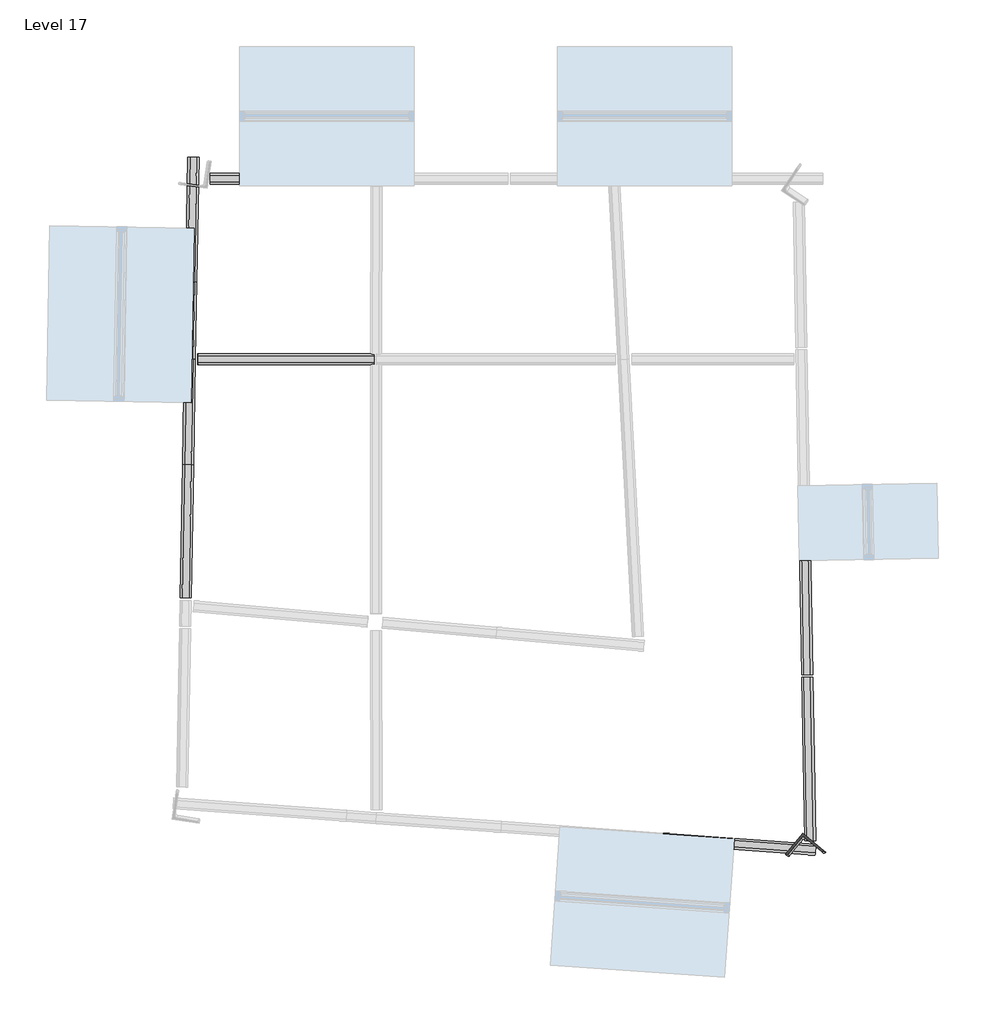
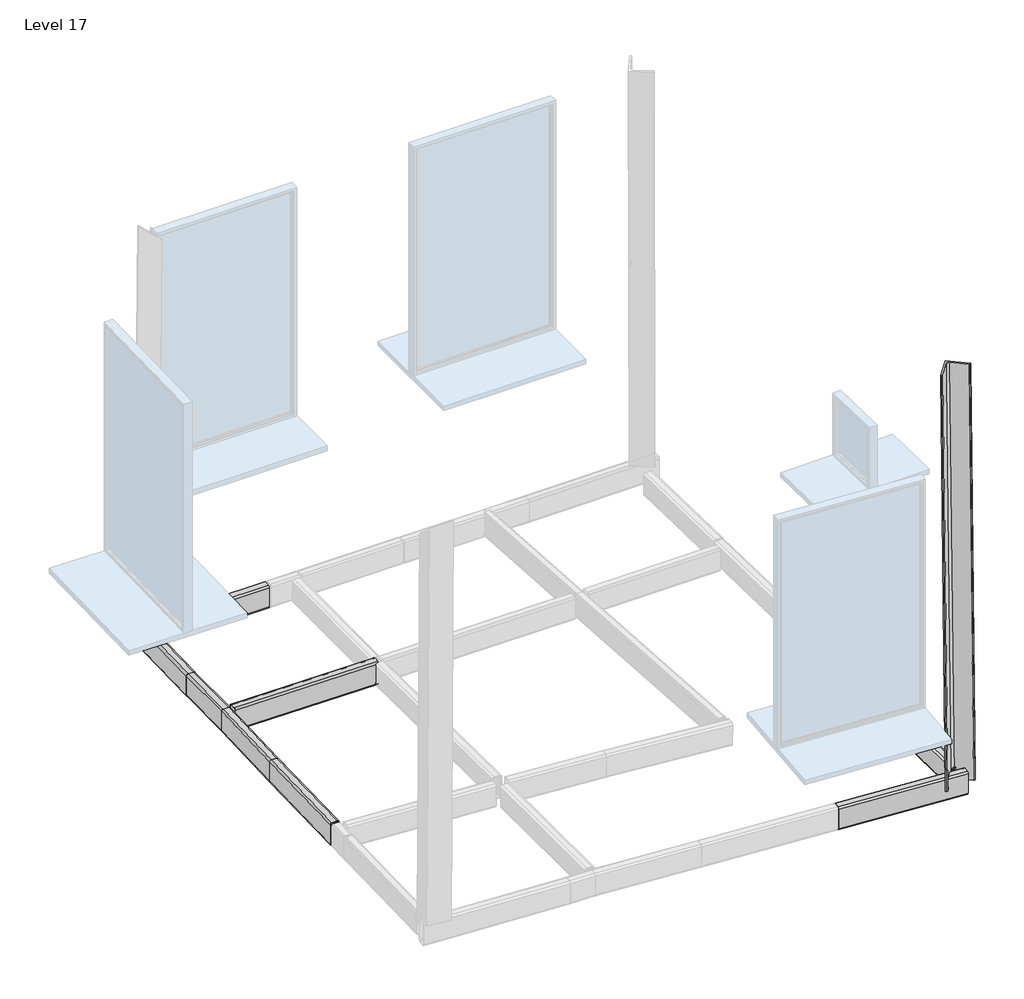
# One storey, part 2 of 3: 10 beams.
"""IFC4 building model written with IfcOpenShell, lengths in millimetres."""

from ifc_helpers import new_model, si_unit, frame, origin, place, context, project, spatial, polyline, circle_curve, ellipse_curve, transform, mapped, element, save
from ifc_brep_helpers import plane_surface, cylinder_surface, revolved_surface, advanced_brep
from components import l120x10_26ae7882, rectangular_and_square_hollow_sections_b3987f33, rectangular_and_square_hollow_sections_56db6596, rectangular_and_square_hollow_sections_7d008f3f, rectangular_and_square_hollow_sections_a107d3ab, rectangular_and_square_hollow_sections_ca13e8e6, rectangular_and_square_hollow_sections_25e7b042

model = new_model("IFC4")

# Units and contexts
model_context = context("Model", 3, world=origin())
ifc_project = project(units=[si_unit("LENGTHUNIT", "METRE", prefix="MILLI")], contexts=[model_context])

# Site, building, storey
site = spatial("IfcSite", under=ifc_project)
building = spatial("IfcBuilding", under=site)
storey = spatial("IfcBuildingStorey", under=building, Name="Level 17", Elevation=2886.4344134)

# Beams
placement = place(None, origin())
l120x10_shape = l120x10_26ae7882(model_context)
element("IfcBeam", 1, ObjectType="L ali uguali : L120x10", at=placement, inside=storey, context=model_context, shape_type="MappedRepresentation", body=[
    mapped(l120x10_shape, transform((2536.0507112, -1412.2872192, 4290.7877329), x_axis=(0.007391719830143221, -0.006135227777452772, -0.9999538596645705), y_axis=(0.6386756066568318, 0.7694761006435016, 0.0), z_axis=(0.7694405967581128, -0.6386461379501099, 0.009606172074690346))),
])
element("IfcBeam", 2, ObjectType="Rectangular and Square Hollow Sections : TREC160x60x6", at=placement, inside=storey, context=model_context, shape_type="AdvancedBrep", body=[
    advanced_brep(
    [(-816.2448692, 1642.878765, 2940.82166), (-828.2447984, 1642.9884287, 2928.82166), (-835.6333558, 1223.3970055, 2935.9302115), (-823.6347342, 1223.213078, 2947.9314697), (-780.2504492, 1642.2449417, 2940.82166), (-787.6403143, 1222.5792546, 2947.9314697), (-768.2540985, 1641.9320565, 2928.82166), (-775.6426558, 1222.3406333, 2935.9302115), (-768.2743768, 1640.7804671, 2792.82166), (-775.6481134, 1222.0307022, 2799.9159525), (-780.274306, 1640.8901307, 2780.82166), (-787.6467349, 1222.2146298, 2787.9146943), (-816.268726, 1641.523954, 2780.82166), (-823.6411549, 1222.8484531, 2787.9146943), (-828.2650767, 1641.8368393, 2792.82166), (-835.6388133, 1223.0870744, 2799.9159525), (-816.2457638, 1642.8279596, 2934.82166), (-780.2513439, 1642.1941363, 2934.82166), (-787.6405551, 1222.5655812, 2941.9308406), (-823.634975, 1223.1994045, 2941.9308406), (-822.2457284, 1642.8827914, 2928.82166), (-829.6342858, 1223.2913683, 2935.9302115), (-822.2660067, 1641.7312021, 2792.82166), (-829.6397433, 1222.9814372, 2799.9159525), (-816.2678313, 1641.5747595, 2786.82166), (-823.6409141, 1222.8621266, 2793.9153234), (-780.2734114, 1640.9409361, 2786.82166), (-787.6464942, 1222.2283032, 2793.9153234), (-774.2734467, 1640.8861043, 2792.82166), (-781.6471834, 1222.1363394, 2799.9159525), (-774.2531685, 1642.0376937, 2928.82166), (-781.6417258, 1222.4462705, 2935.9302115)],
    [
        (0, 1, ellipse_curve(frame((-816.2466584, 1642.7771542, 2928.82166), z_axis=(-0.017605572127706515, -0.9998091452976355, 0.008468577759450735), x_axis=(-0.00014905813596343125, -0.008467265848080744, -0.9999641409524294)), 12.0004303, 12.0)),
        (1, 2),
        (2, 3, ellipse_curve(frame((-823.6352158, 1223.1857311, 2935.9302115), z_axis=(0.01760615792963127, 0.9998424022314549, -0.002279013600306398), x_axis=(-4.011334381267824e-05, -0.002278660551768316, -0.9999974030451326)), 12.0012893, 12.0)),
        (3, 0),
        (4, 0),
        (3, 5),
        (5, 4),
        (6, 4, ellipse_curve(frame((-780.2522385, 1642.1433309, 2928.82166), z_axis=(-0.017605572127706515, -0.9998091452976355, 0.008468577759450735), x_axis=(-0.00014905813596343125, -0.008467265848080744, -0.9999641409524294)), 12.0004303, 12.0)),
        (5, 7, ellipse_curve(frame((-787.6407958, 1222.5519078, 2935.9302115), z_axis=(0.01760615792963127, 0.9998424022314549, -0.002279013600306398), x_axis=(-4.011334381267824e-05, -0.002278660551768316, -0.9999974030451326)), 12.0012893, 12.0)),
        (7, 6),
        (8, 6),
        (7, 9),
        (9, 8),
        (10, 8, ellipse_curve(frame((-780.2725167, 1640.9917415, 2792.82166), z_axis=(-0.017605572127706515, -0.9998091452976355, 0.008468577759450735), x_axis=(-0.00014905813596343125, -0.008467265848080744, -0.9999641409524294)), 12.0004303, 12.0)),
        (9, 11, ellipse_curve(frame((-787.6462534, 1222.2419767, 2799.9159525), z_axis=(0.01760615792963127, 0.9998424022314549, -0.002279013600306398), x_axis=(-4.011334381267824e-05, -0.002278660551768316, -0.9999974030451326)), 12.0012893, 12.0)),
        (11, 10),
        (12, 10),
        (11, 13),
        (13, 12),
        (14, 12, ellipse_curve(frame((-816.2669367, 1641.6255649, 2792.82166), z_axis=(-0.017605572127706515, -0.9998091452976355, 0.008468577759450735), x_axis=(-0.00014905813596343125, -0.008467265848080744, -0.9999641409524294)), 12.0004303, 12.0)),
        (13, 15, ellipse_curve(frame((-823.6406733, 1222.8758, 2799.9159525), z_axis=(0.01760615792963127, 0.9998424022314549, -0.002279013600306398), x_axis=(-4.011334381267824e-05, -0.002278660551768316, -0.9999974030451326)), 12.0012893, 12.0)),
        (15, 14),
        (1, 14),
        (15, 2),
        (16, 17),
        (17, 18),
        (18, 19),
        (19, 16),
        (20, 16, ellipse_curve(frame((-816.2466584, 1642.7771542, 2928.82166), z_axis=(0.017605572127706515, 0.9998091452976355, -0.008468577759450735), x_axis=(0.00014905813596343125, 0.008467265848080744, 0.9999641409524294)), 6.0002152, 6.0)),
        (19, 21, ellipse_curve(frame((-823.6352158, 1223.1857311, 2935.9302115), z_axis=(-0.01760615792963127, -0.9998424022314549, 0.002279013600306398), x_axis=(4.011334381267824e-05, 0.002278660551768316, 0.9999974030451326)), 6.0006447, 6.0)),
        (21, 20),
        (22, 20),
        (21, 23),
        (23, 22),
        (24, 22, ellipse_curve(frame((-816.2669367, 1641.6255649, 2792.82166), z_axis=(0.017605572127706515, 0.9998091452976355, -0.008468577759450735), x_axis=(0.00014905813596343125, 0.008467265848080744, 0.9999641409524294)), 6.0002152, 6.0)),
        (23, 25, ellipse_curve(frame((-823.6406733, 1222.8758, 2799.9159525), z_axis=(-0.01760615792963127, -0.9998424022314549, 0.002279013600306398), x_axis=(4.011334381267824e-05, 0.002278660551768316, 0.9999974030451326)), 6.0006447, 6.0)),
        (25, 24),
        (26, 24),
        (25, 27),
        (27, 26),
        (28, 26, ellipse_curve(frame((-780.2725167, 1640.9917415, 2792.82166), z_axis=(0.017605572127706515, 0.9998091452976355, -0.008468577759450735), x_axis=(0.00014905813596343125, 0.008467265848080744, 0.9999641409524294)), 6.0002152, 6.0)),
        (27, 29, ellipse_curve(frame((-787.6462534, 1222.2419767, 2799.9159525), z_axis=(-0.01760615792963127, -0.9998424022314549, 0.002279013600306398), x_axis=(4.011334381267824e-05, 0.002278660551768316, 0.9999974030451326)), 6.0006447, 6.0)),
        (29, 28),
        (30, 28),
        (29, 31),
        (31, 30),
        (17, 30, ellipse_curve(frame((-780.2522385, 1642.1433309, 2928.82166), z_axis=(0.017605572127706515, 0.9998091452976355, -0.008468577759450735), x_axis=(0.00014905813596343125, 0.008467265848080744, 0.9999641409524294)), 6.0002152, 6.0)),
        (31, 18, ellipse_curve(frame((-787.6407958, 1222.5519078, 2935.9302115), z_axis=(-0.01760615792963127, -0.9998424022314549, 0.002279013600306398), x_axis=(4.011334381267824e-05, 0.002278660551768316, 0.9999974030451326)), 6.0006447, 6.0)),
    ],
    [
        cylinder_surface(frame((-816.2391236, 1643.2050519, 2928.8144107), z_axis=(0.01760367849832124, 0.9997015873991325, -0.01693654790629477), x_axis=(0.9998449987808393, -0.017606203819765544, 0.0)), 12.0),
        plane_surface(frame((-816.2355454, 1643.4082589, 2940.8126895), z_axis=(0.0002981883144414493, 0.01693392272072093, 0.9998565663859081), x_axis=(-0.017603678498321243, -0.9997015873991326, 0.016936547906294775))),
        cylinder_surface(frame((-780.2447037, 1642.5712285, 2928.8144107), z_axis=(0.01760367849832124, 0.9997015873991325, -0.01693654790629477), x_axis=(0.9998449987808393, -0.017606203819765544, 0.0)), 12.0),
        plane_surface(frame((-768.2465637, 1642.3599541, 2928.8144107), z_axis=(0.9998449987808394, -0.017606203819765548, 0.0), x_axis=(-0.017603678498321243, -0.9997015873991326, 0.016936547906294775))),
        cylinder_surface(frame((-780.2852573, 1640.268215, 2792.8339177), z_axis=(0.01760367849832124, 0.9997015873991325, -0.01693654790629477), x_axis=(0.9998449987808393, -0.017606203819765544, 0.0)), 12.0),
        plane_surface(frame((-780.2888355, 1640.065008, 2780.8356389), z_axis=(-0.0002981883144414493, -0.01693392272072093, -0.9998565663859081), x_axis=(-0.017603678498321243, -0.9997015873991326, 0.016936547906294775))),
        cylinder_surface(frame((-816.2796772, 1640.9020384, 2792.8339177), z_axis=(0.01760367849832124, 0.9997015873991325, -0.01693654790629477), x_axis=(0.9998449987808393, -0.017606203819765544, 0.0)), 12.0),
        plane_surface(frame((-828.2778172, 1641.1133128, 2792.8339177), z_axis=(-0.9998449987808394, 0.017606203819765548, 0.0), x_axis=(-0.017603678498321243, -0.9997015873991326, 0.016936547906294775))),
        plane_surface(frame((-780.2429145, 1642.6728321, 2934.8135501), z_axis=(-0.0002981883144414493, -0.01693392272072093, -0.9998565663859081), x_axis=(-0.017603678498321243, -0.9997015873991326, 0.016936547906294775))),
        revolved_surface(polyline([(-817.6376941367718, 1222.99216374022, 2935.9317011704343), (-810.2466939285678, 1642.7223151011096, 2928.8207993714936)]), (-816.2391236, 1643.2050519, 2928.8144107), (-0.01760367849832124, -0.9997015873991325, 0.01693654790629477)),
        plane_surface(frame((-822.2381936, 1643.3106891, 2928.8144107), z_axis=(0.9998449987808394, -0.017606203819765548, 0.0), x_axis=(-0.017603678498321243, -0.9997015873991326, 0.016936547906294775))),
        revolved_surface(polyline([(-817.6431516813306, 1222.6822326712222, 2799.917442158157), (-810.2669721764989, 1641.5707258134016, 2792.8207993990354)]), (-816.2796772, 1640.9020384, 2792.8339177), (-0.01760367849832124, -0.9997015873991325, 0.01693654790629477)),
        plane_surface(frame((-816.2814664, 1640.8004348, 2786.8347783), z_axis=(0.0002981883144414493, 0.01693392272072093, 0.9998565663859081), x_axis=(-0.017603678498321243, -0.9997015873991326, 0.016936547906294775))),
        revolved_surface(polyline([(-781.6487317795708, 1222.0484093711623, 2799.9174421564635), (-774.2725522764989, 1640.9369024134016, 2792.8207993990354)]), (-780.2852573, 1640.268215, 2792.8339177), (-0.01760367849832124, -0.9997015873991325, 0.01693654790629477)),
        plane_surface(frame((-774.2861873, 1640.1625778, 2792.8339177), z_axis=(-0.9998449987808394, 0.017606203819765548, 0.0), x_axis=(-0.017603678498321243, -0.9997015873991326, 0.016936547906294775))),
        revolved_surface(polyline([(-781.6432742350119, 1222.3583404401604, 2935.9317011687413), (-774.2522740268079, 1642.08849180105, 2928.8207993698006)]), (-780.2447037, 1642.5712285, 2928.8144107), (-0.01760367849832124, -0.9997015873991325, 0.01693654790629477)),
        plane_surface(frame((-805.643944, 1222.5315414, 2787.914694), z_axis=(-0.01760615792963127, -0.9998424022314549, 0.002279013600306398), x_axis=(0.9998449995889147, -0.017606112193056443, 4.013089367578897e-05))),
        plane_surface(frame((-798.2715127, 1641.2070423, 2780.8216588), z_axis=(0.017605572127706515, 0.9998091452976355, -0.008468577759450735), x_axis=(0.9998450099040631, -0.01760494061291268, 0.00014911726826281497))),
    ],
    [
        (0, [[1, 2, 3, 4]]),
        (1, [[5, -4, 6, 7]]),
        (2, [[8, -7, 9, 10]]),
        (3, [[11, -10, 12, 13]]),
        (4, [[14, -13, 15, 16]]),
        (5, [[17, -16, 18, 19]]),
        (6, [[20, -19, 21, 22]]),
        (7, [[23, -22, 24, -2]]),
        (8, [[25, 26, 27, 28]]),
        (9, [[29, -28, 30, 31]]),
        (10, [[32, -31, 33, 34]]),
        (11, [[35, -34, 36, 37]]),
        (12, [[38, -37, 39, 40]]),
        (13, [[41, -40, 42, 43]]),
        (14, [[44, -43, 45, 46]]),
        (15, [[47, -46, 48, -26]]),
        (16, [[-24, -21, -18, -15, -12, -9, -6, -3], [-48, -45, -42, -39, -36, -33, -30, -27]]),
        (17, [[-1, -5, -8, -11, -14, -17, -20, -23], [-25, -29, -32, -35, -38, -41, -44, -47]]),
    ],
),
])
element("IfcBeam", 3, ObjectType="Rectangular and Square Hollow Sections : TREC160x60x6", at=placement, inside=storey, context=model_context, shape_type="AdvancedBrep", body=[
    advanced_brep(
    [(-858.4720954, -73.6003446, 2928.82166), (-858.4720954, -73.6003446, 2792.82166), (-846.4739554, -73.811619, 2780.82166), (-810.4795354, -74.4454424, 2780.82166), (-798.4813955, -74.6567168, 2792.82166), (-798.4813955, -74.6567168, 2928.82166), (-810.4795354, -74.4454424, 2940.82166), (-846.4739554, -73.811619, 2940.82166), (-810.4795354, -74.4454424, 2934.82166), (-804.4804655, -74.5510796, 2928.82166), (-804.4804655, -74.5510796, 2792.82166), (-810.4795354, -74.4454424, 2786.82166), (-846.4739554, -73.811619, 2786.82166), (-852.4730254, -73.7059818, 2792.82166), (-852.4730254, -73.7059818, 2928.82166), (-846.4739554, -73.811619, 2934.82166), (-833.7459758, 649.0021579, 2940.82166), (-845.742808, 649.2876977, 2928.82166), (-797.7515558, 648.3683346, 2940.82166), (-785.7521081, 648.2313255, 2928.82166), (-785.7372871, 649.073, 2792.82166), (-797.7341194, 649.3585399, 2780.82166), (-833.7285393, 649.9923632, 2780.82166), (-845.7279871, 650.1293722, 2792.82166), (-833.7453219, 649.0392906, 2934.82166), (-797.750902, 648.4054673, 2934.82166), (-839.7437381, 649.1820605, 2928.82166), (-839.7289171, 650.023735, 2792.82166), (-833.7291932, 649.9552305, 2786.82166), (-797.7347732, 649.3214072, 2786.82166), (-791.7363571, 649.1786372, 2792.82166), (-791.7511781, 648.3369627, 2928.82166)],
    [
        (0, 1),
        (1, 2, circle_curve(frame((-846.4739554, -73.811619, 2792.82166), z_axis=(-0.01760620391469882, -0.9998449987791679, 0.0), x_axis=(0.9998449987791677, -0.017606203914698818, 0.0)), 12.0)),
        (2, 3),
        (3, 4, circle_curve(frame((-810.4795354, -74.4454424, 2792.82166), z_axis=(-0.01760620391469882, -0.9998449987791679, 0.0), x_axis=(0.9998449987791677, -0.017606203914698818, 0.0)), 12.0)),
        (4, 5),
        (5, 6, circle_curve(frame((-810.4795354, -74.4454424, 2928.82166), z_axis=(-0.01760620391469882, -0.9998449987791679, 0.0), x_axis=(0.9998449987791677, -0.017606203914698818, 0.0)), 12.0)),
        (6, 7),
        (7, 0, circle_curve(frame((-846.4739554, -73.811619, 2928.82166), z_axis=(-0.01760620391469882, -0.9998449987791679, 0.0), x_axis=(0.9998449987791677, -0.017606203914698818, 0.0)), 12.0)),
        (8, 9, circle_curve(frame((-810.4795354, -74.4454424, 2928.82166), z_axis=(0.01760620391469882, 0.9998449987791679, 0.0), x_axis=(0.9998449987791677, -0.017606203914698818, 0.0)), 6.0)),
        (9, 10),
        (10, 11, circle_curve(frame((-810.4795354, -74.4454424, 2792.82166), z_axis=(0.01760620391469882, 0.9998449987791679, 0.0), x_axis=(0.9998449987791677, -0.017606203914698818, 0.0)), 6.0)),
        (11, 12),
        (12, 13, circle_curve(frame((-846.4739554, -73.811619, 2792.82166), z_axis=(0.01760620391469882, 0.9998449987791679, 0.0), x_axis=(0.9998449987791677, -0.017606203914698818, 0.0)), 6.0)),
        (13, 14),
        (14, 15, circle_curve(frame((-846.4739554, -73.811619, 2928.82166), z_axis=(0.01760620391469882, 0.9998449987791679, 0.0), x_axis=(0.9998449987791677, -0.017606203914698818, 0.0)), 6.0)),
        (15, 8),
        (16, 17, ellipse_curve(frame((-833.7446681, 649.0764233, 2928.82166), z_axis=(-0.017605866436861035, -0.9998258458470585, -0.0061896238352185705), x_axis=(0.00010901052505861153, 0.006188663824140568, -0.9999808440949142)), 12.0002299, 12.0)),
        (17, 0),
        (7, 16),
        (18, 16),
        (6, 18),
        (19, 18, ellipse_curve(frame((-797.7502481, 648.4426, 2928.82166), z_axis=(-0.017605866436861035, -0.9998258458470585, -0.0061896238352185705), x_axis=(0.00010901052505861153, 0.006188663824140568, -0.9999808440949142)), 12.0002299, 12.0)),
        (5, 19),
        (20, 19),
        (4, 20),
        (21, 20, ellipse_curve(frame((-797.7354271, 649.2842745, 2792.82166), z_axis=(-0.017605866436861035, -0.9998258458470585, -0.0061896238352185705), x_axis=(0.00010901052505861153, 0.006188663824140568, -0.9999808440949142)), 12.0002299, 12.0)),
        (3, 21),
        (22, 21),
        (2, 22),
        (23, 22, ellipse_curve(frame((-833.7298471, 649.9180978, 2792.82166), z_axis=(-0.017605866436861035, -0.9998258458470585, -0.0061896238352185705), x_axis=(0.00010901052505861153, 0.006188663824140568, -0.9999808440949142)), 12.0002299, 12.0)),
        (1, 23),
        (17, 23),
        (24, 25),
        (25, 8),
        (15, 24),
        (26, 24, ellipse_curve(frame((-833.7446681, 649.0764233, 2928.82166), z_axis=(0.017605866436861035, 0.9998258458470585, 0.0061896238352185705), x_axis=(-0.00010901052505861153, -0.006188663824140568, 0.9999808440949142)), 6.0001149, 6.0)),
        (14, 26),
        (27, 26),
        (13, 27),
        (28, 27, ellipse_curve(frame((-833.7298471, 649.9180978, 2792.82166), z_axis=(0.017605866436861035, 0.9998258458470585, 0.0061896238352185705), x_axis=(-0.00010901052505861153, -0.006188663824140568, 0.9999808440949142)), 6.0001149, 6.0)),
        (12, 28),
        (29, 28),
        (11, 29),
        (30, 29, ellipse_curve(frame((-797.7354271, 649.2842745, 2792.82166), z_axis=(0.017605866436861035, 0.9998258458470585, 0.0061896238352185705), x_axis=(-0.00010901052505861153, -0.006188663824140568, 0.9999808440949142)), 6.0001149, 6.0)),
        (10, 30),
        (31, 30),
        (9, 31),
        (25, 31, ellipse_curve(frame((-797.7502481, 648.4426, 2928.82166), z_axis=(0.017605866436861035, 0.9998258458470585, 0.0061896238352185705), x_axis=(-0.00010901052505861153, -0.006188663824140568, 0.9999808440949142)), 6.0001149, 6.0)),
    ],
    [
        plane_surface(frame((-828.4767454, -74.1285307, 2860.82166), z_axis=(-0.01760620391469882, -0.9998449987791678, 0.0), x_axis=(0.0, 0.0, 1.0))),
        cylinder_surface(frame((-833.74467, 649.0763151, 2928.82166), z_axis=(0.017606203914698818, 0.9998449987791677, 0.0), x_axis=(0.9998449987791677, -0.017606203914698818, 0.0)), 12.0),
        plane_surface(frame((-833.74467, 649.0763151, 2940.82166), z_axis=(0.0, 0.0, 1.0), x_axis=(-0.01760620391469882, -0.9998449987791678, 0.0))),
        cylinder_surface(frame((-797.75025, 648.4424917, 2928.82166), z_axis=(0.017606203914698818, 0.9998449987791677, 0.0), x_axis=(0.9998449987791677, -0.017606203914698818, 0.0)), 12.0),
        plane_surface(frame((-785.75211, 648.2312173, 2928.82166), z_axis=(0.9998449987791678, -0.01760620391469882, 0.0), x_axis=(-0.01760620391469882, -0.9998449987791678, 0.0))),
        cylinder_surface(frame((-797.75025, 648.4424917, 2792.82166), z_axis=(0.017606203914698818, 0.9998449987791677, 0.0), x_axis=(0.9998449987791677, -0.017606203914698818, 0.0)), 12.0),
        plane_surface(frame((-797.75025, 648.4424917, 2780.82166), z_axis=(0.0, 0.0, -1.0), x_axis=(-0.01760620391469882, -0.9998449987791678, 0.0))),
        cylinder_surface(frame((-833.74467, 649.0763151, 2792.82166), z_axis=(0.017606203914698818, 0.9998449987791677, 0.0), x_axis=(0.9998449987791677, -0.017606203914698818, 0.0)), 12.0),
        plane_surface(frame((-845.74281, 649.2875895, 2792.82166), z_axis=(-0.9998449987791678, 0.01760620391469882, 0.0), x_axis=(-0.01760620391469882, -0.9998449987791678, 0.0))),
        plane_surface(frame((-797.75025, 648.4424917, 2934.82166), z_axis=(0.0, 0.0, -1.0), x_axis=(-0.01760620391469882, -0.9998449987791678, 0.0))),
        revolved_surface(polyline([(-840.4748854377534, -73.91725624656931, 2928.82166), (-827.7449442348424, 649.0079187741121, 2928.82166)]), (-833.74467, 649.0763151, 2928.82166), (-0.017606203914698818, -0.9998449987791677, 0.0)),
        plane_surface(frame((-839.74374, 649.1819523, 2928.82166), z_axis=(0.9998449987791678, -0.01760620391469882, 0.0), x_axis=(-0.01760620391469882, -0.9998449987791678, 0.0))),
        revolved_surface(polyline([(-840.4748854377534, -73.91725624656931, 2792.82166), (-827.7301232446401, 649.8495932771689, 2792.82166)]), (-833.74467, 649.0763151, 2792.82166), (-0.017606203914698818, -0.9998449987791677, 0.0)),
        plane_surface(frame((-833.74467, 649.0763151, 2786.82166), z_axis=(0.0, 0.0, 1.0), x_axis=(-0.01760620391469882, -0.9998449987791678, 0.0))),
        revolved_surface(polyline([(-804.4804654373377, -74.55107962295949, 2792.82166), (-791.7357032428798, 649.2157699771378, 2792.82166)]), (-797.75025, 648.4424917, 2792.82166), (-0.017606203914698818, -0.9998449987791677, 0.0)),
        plane_surface(frame((-791.75118, 648.3368545, 2792.82166), z_axis=(-0.9998449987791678, 0.01760620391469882, 0.0), x_axis=(-0.01760620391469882, -0.9998449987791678, 0.0))),
        revolved_surface(polyline([(-804.4804654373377, -74.55107962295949, 2928.82166), (-791.750524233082, 648.3740954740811, 2928.82166)]), (-797.75025, 648.4424917, 2928.82166), (-0.017606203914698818, -0.9998449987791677, 0.0)),
        plane_surface(frame((-815.7313266, 649.6754515, 2780.821659), z_axis=(0.017605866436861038, 0.9998258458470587, 0.006189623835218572), x_axis=(0.9998450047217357, -0.017605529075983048, -0.00010899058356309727))),
    ],
    [
        (0, [[1, 2, 3, 4, 5, 6, 7, 8], [9, 10, 11, 12, 13, 14, 15, 16]]),
        (1, [[17, 18, -8, 19]]),
        (2, [[20, -19, -7, 21]]),
        (3, [[22, -21, -6, 23]]),
        (4, [[24, -23, -5, 25]]),
        (5, [[26, -25, -4, 27]]),
        (6, [[28, -27, -3, 29]]),
        (7, [[30, -29, -2, 31]]),
        (8, [[32, -31, -1, -18]]),
        (9, [[33, 34, -16, 35]]),
        (10, [[36, -35, -15, 37]]),
        (11, [[38, -37, -14, 39]]),
        (12, [[40, -39, -13, 41]]),
        (13, [[42, -41, -12, 43]]),
        (14, [[44, -43, -11, 45]]),
        (15, [[46, -45, -10, 47]]),
        (16, [[48, -47, -9, -34]]),
        (17, [[-17, -20, -22, -24, -26, -28, -30, -32], [-33, -36, -38, -40, -42, -44, -46, -48]]),
    ],
),
])
element("IfcBeam", 4, ObjectType="Rectangular and Square Hollow Sections : TREC160x60x6", at=placement, inside=storey, context=model_context, shape_type="AdvancedBrep", body=[
    advanced_brep(
    [(-823.6347342, 1223.213078, 2947.9314697), (-835.6333558, 1223.3970055, 2935.9302115), (-845.742808, 649.2876977, 2928.82166), (-833.7459758, 649.0021579, 2940.82166), (-787.6403143, 1222.5792546, 2947.9314697), (-797.7515558, 648.3683346, 2940.82166), (-775.6426558, 1222.3406333, 2935.9302115), (-785.7521081, 648.2313255, 2928.82166), (-775.6481134, 1222.0307022, 2799.9159525), (-785.7372871, 649.073, 2792.82166), (-787.6467349, 1222.2146298, 2787.9146943), (-797.7341194, 649.3585399, 2780.82166), (-823.6411549, 1222.8484531, 2787.9146943), (-833.7285393, 649.9923632, 2780.82166), (-835.6388133, 1223.0870744, 2799.9159525), (-845.7279871, 650.1293722, 2792.82166), (-823.634975, 1223.1994045, 2941.9308406), (-787.6405551, 1222.5655812, 2941.9308406), (-797.750902, 648.4054673, 2934.82166), (-833.7453219, 649.0392906, 2934.82166), (-829.6342858, 1223.2913683, 2935.9302115), (-839.7437381, 649.1820605, 2928.82166), (-829.6397433, 1222.9814372, 2799.9159525), (-839.7289171, 650.023735, 2792.82166), (-823.6409141, 1222.8621266, 2793.9153234), (-833.7291932, 649.9552305, 2786.82166), (-787.6464942, 1222.2283032, 2793.9153234), (-797.7347732, 649.3214072, 2786.82166), (-781.6471834, 1222.1363394, 2799.9159525), (-791.7363571, 649.1786372, 2792.82166), (-781.6417258, 1222.4462705, 2935.9302115), (-791.7511781, 648.3369627, 2928.82166)],
    [
        (0, 1, ellipse_curve(frame((-823.6352158, 1223.1857311, 2935.9302115), z_axis=(-0.01760615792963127, -0.9998424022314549, 0.0022790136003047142), x_axis=(4.0113343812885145e-05, 0.0022786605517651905, 0.9999974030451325)), 12.0012893, 12.0)),
        (1, 2),
        (2, 3, ellipse_curve(frame((-833.7446681, 649.0764233, 2928.82166), z_axis=(0.017605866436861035, 0.9998258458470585, 0.006189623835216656), x_axis=(-0.0001090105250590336, -0.0061886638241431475, 0.9999808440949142)), 12.0002299, 12.0)),
        (3, 0),
        (4, 0),
        (3, 5),
        (5, 4),
        (6, 4, ellipse_curve(frame((-787.6407958, 1222.5519078, 2935.9302115), z_axis=(-0.01760615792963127, -0.9998424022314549, 0.0022790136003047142), x_axis=(4.0113343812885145e-05, 0.0022786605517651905, 0.9999974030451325)), 12.0012893, 12.0)),
        (5, 7, ellipse_curve(frame((-797.7502481, 648.4426, 2928.82166), z_axis=(0.017605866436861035, 0.9998258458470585, 0.006189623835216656), x_axis=(-0.0001090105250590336, -0.0061886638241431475, 0.9999808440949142)), 12.0002299, 12.0)),
        (7, 6),
        (8, 6),
        (7, 9),
        (9, 8),
        (10, 8, ellipse_curve(frame((-787.6462534, 1222.2419767, 2799.9159525), z_axis=(-0.01760615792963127, -0.9998424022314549, 0.0022790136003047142), x_axis=(4.0113343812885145e-05, 0.0022786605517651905, 0.9999974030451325)), 12.0012893, 12.0)),
        (9, 11, ellipse_curve(frame((-797.7354271, 649.2842745, 2792.82166), z_axis=(0.017605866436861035, 0.9998258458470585, 0.006189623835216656), x_axis=(-0.0001090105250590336, -0.0061886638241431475, 0.9999808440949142)), 12.0002299, 12.0)),
        (11, 10),
        (12, 10),
        (11, 13),
        (13, 12),
        (14, 12, ellipse_curve(frame((-823.6406733, 1222.8758, 2799.9159525), z_axis=(-0.01760615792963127, -0.9998424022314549, 0.0022790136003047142), x_axis=(4.0113343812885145e-05, 0.0022786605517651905, 0.9999974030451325)), 12.0012893, 12.0)),
        (13, 15, ellipse_curve(frame((-833.7298471, 649.9180978, 2792.82166), z_axis=(0.017605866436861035, 0.9998258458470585, 0.006189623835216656), x_axis=(-0.0001090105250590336, -0.0061886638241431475, 0.9999808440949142)), 12.0002299, 12.0)),
        (15, 14),
        (1, 14),
        (15, 2),
        (16, 17),
        (17, 18),
        (18, 19),
        (19, 16),
        (20, 16, ellipse_curve(frame((-823.6352158, 1223.1857311, 2935.9302115), z_axis=(0.01760615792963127, 0.9998424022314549, -0.0022790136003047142), x_axis=(-4.0113343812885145e-05, -0.0022786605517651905, -0.9999974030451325)), 6.0006447, 6.0)),
        (19, 21, ellipse_curve(frame((-833.7446681, 649.0764233, 2928.82166), z_axis=(-0.017605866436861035, -0.9998258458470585, -0.006189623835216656), x_axis=(0.0001090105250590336, 0.0061886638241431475, -0.9999808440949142)), 6.0001149, 6.0)),
        (21, 20),
        (22, 20),
        (21, 23),
        (23, 22),
        (24, 22, ellipse_curve(frame((-823.6406733, 1222.8758, 2799.9159525), z_axis=(0.01760615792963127, 0.9998424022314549, -0.0022790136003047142), x_axis=(-4.0113343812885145e-05, -0.0022786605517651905, -0.9999974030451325)), 6.0006447, 6.0)),
        (23, 25, ellipse_curve(frame((-833.7298471, 649.9180978, 2792.82166), z_axis=(-0.017605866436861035, -0.9998258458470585, -0.006189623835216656), x_axis=(0.0001090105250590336, 0.0061886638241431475, -0.9999808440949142)), 6.0001149, 6.0)),
        (25, 24),
        (26, 24),
        (25, 27),
        (27, 26),
        (28, 26, ellipse_curve(frame((-787.6462534, 1222.2419767, 2799.9159525), z_axis=(0.01760615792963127, 0.9998424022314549, -0.0022790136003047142), x_axis=(-4.0113343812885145e-05, -0.0022786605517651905, -0.9999974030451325)), 6.0006447, 6.0)),
        (27, 29, ellipse_curve(frame((-797.7354271, 649.2842745, 2792.82166), z_axis=(-0.017605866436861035, -0.9998258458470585, -0.006189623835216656), x_axis=(0.0001090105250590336, 0.0061886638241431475, -0.9999808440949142)), 6.0001149, 6.0)),
        (29, 28),
        (30, 28),
        (29, 31),
        (31, 30),
        (17, 30, ellipse_curve(frame((-787.6407958, 1222.5519078, 2935.9302115), z_axis=(0.01760615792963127, 0.9998424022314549, -0.0022790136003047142), x_axis=(-4.0113343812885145e-05, -0.0022786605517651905, -0.9999974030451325)), 6.0006447, 6.0)),
        (31, 18, ellipse_curve(frame((-797.7502481, 648.4426, 2928.82166), z_axis=(-0.017605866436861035, -0.9998258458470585, -0.006189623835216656), x_axis=(0.0001090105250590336, 0.0061886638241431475, -0.9999808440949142)), 6.0001149, 6.0)),
    ],
    [
        cylinder_surface(frame((-823.6586307, 1221.8560139, 2935.9137471), z_axis=(0.01760485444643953, 0.9997683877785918, 0.012379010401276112), x_axis=(0.9998449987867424, -0.017606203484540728, 0.0)), 12.0),
        plane_surface(frame((-823.6612461, 1221.7074888, 2947.9128276), z_axis=(-0.00021794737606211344, -0.01237709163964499, 0.9999233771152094), x_axis=(-0.017604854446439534, -0.9997683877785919, -0.012379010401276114))),
        cylinder_surface(frame((-787.6642107, 1221.2221906, 2935.9137471), z_axis=(0.01760485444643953, 0.9997683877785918, 0.012379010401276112), x_axis=(0.9998449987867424, -0.017606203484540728, 0.0)), 12.0),
        plane_surface(frame((-775.6660707, 1221.0109161, 2935.9137471), z_axis=(0.9998449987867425, -0.01760620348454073, 0.0), x_axis=(-0.017604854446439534, -0.9997683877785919, -0.012379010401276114))),
        cylinder_surface(frame((-787.6345699, 1222.905475, 2799.9241678), z_axis=(0.01760485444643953, 0.9997683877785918, 0.012379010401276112), x_axis=(0.9998449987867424, -0.017606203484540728, 0.0)), 12.0),
        plane_surface(frame((-787.6319545, 1223.0540001, 2787.9250873), z_axis=(0.00021794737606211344, 0.01237709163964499, -0.9999233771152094), x_axis=(-0.017604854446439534, -0.9997683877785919, -0.012379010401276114))),
        cylinder_surface(frame((-823.6289898, 1223.5392984, 2799.9241678), z_axis=(0.01760485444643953, 0.9997683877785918, 0.012379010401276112), x_axis=(0.9998449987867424, -0.017606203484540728, 0.0)), 12.0),
        plane_surface(frame((-835.6271298, 1223.7505728, 2799.9241678), z_axis=(-0.9998449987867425, 0.01760620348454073, 0.0), x_axis=(-0.017604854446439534, -0.9997683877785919, -0.012379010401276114))),
        plane_surface(frame((-787.6655184, 1221.147928, 2941.9132874), z_axis=(0.00021794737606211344, 0.01237709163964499, -0.9999233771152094), x_axis=(-0.017604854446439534, -0.9997683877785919, -0.012379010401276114))),
        revolved_surface(polyline([(-827.7462518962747, 648.9336562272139, 2928.8212002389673), (-817.634597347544, 1223.1680298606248, 2935.9313003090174)]), (-823.6586307, 1221.8560139, 2935.9137471), (-0.01760485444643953, -0.9997683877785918, -0.012379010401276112)),
        plane_surface(frame((-829.6577007, 1221.9616511, 2935.9137471), z_axis=(0.9998449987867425, -0.01760620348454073, 0.0), x_axis=(-0.017604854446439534, -0.9997683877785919, -0.012379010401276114))),
        revolved_surface(polyline([(-827.7314308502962, 649.7753307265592, 2792.821200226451), (-817.6400548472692, 1222.8580987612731, 2799.9170412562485)]), (-823.6289898, 1223.5392984, 2799.9241678), (-0.01760485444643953, -0.9997683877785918, -0.012379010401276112)),
        plane_surface(frame((-823.6276822, 1223.6135609, 2793.9246276), z_axis=(-0.00021794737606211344, -0.01237709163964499, 0.9999233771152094), x_axis=(-0.017604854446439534, -0.9997683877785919, -0.012379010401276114))),
        revolved_surface(polyline([(-791.737010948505, 649.141507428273, 2792.8212002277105), (-781.6456349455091, 1222.2242754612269, 2799.917041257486)]), (-787.6345699, 1222.905475, 2799.9241678), (-0.01760485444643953, -0.9997683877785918, -0.012379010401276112)),
        plane_surface(frame((-781.6354999, 1222.7998378, 2799.9241678), z_axis=(-0.9998449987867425, 0.01760620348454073, 0.0), x_axis=(-0.017604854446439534, -0.9997683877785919, -0.012379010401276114))),
        revolved_surface(polyline([(-791.7518318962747, 648.2998329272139, 2928.8212002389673), (-781.640177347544, 1222.5342065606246, 2935.9313003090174)]), (-787.6642107, 1221.2221906, 2935.9137471), (-0.01760485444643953, -0.9997683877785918, -0.012379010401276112)),
        plane_surface(frame((-805.6375252, 1222.8961663, 2947.93147), z_axis=(0.01760615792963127, 0.9998424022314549, -0.0022790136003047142), x_axis=(0.9998449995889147, -0.017606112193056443, 4.0130893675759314e-05))),
        plane_surface(frame((-815.7487686, 648.6852463, 2940.821661), z_axis=(-0.017605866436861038, -0.9998258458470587, -0.006189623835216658), x_axis=(0.9998450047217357, -0.017605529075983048, -0.00010899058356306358))),
    ],
    [
        (0, [[1, 2, 3, 4]]),
        (1, [[5, -4, 6, 7]]),
        (2, [[8, -7, 9, 10]]),
        (3, [[11, -10, 12, 13]]),
        (4, [[14, -13, 15, 16]]),
        (5, [[17, -16, 18, 19]]),
        (6, [[20, -19, 21, 22]]),
        (7, [[23, -22, 24, -2]]),
        (8, [[25, 26, 27, 28]]),
        (9, [[29, -28, 30, 31]]),
        (10, [[32, -31, 33, 34]]),
        (11, [[35, -34, 36, 37]]),
        (12, [[38, -37, 39, 40]]),
        (13, [[41, -40, 42, 43]]),
        (14, [[44, -43, 45, 46]]),
        (15, [[47, -46, 48, -26]]),
        (16, [[-1, -5, -8, -11, -14, -17, -20, -23], [-25, -29, -32, -35, -38, -41, -44, -47]]),
        (17, [[-24, -21, -18, -15, -12, -9, -6, -3], [-48, -45, -42, -39, -36, -33, -30, -27]]),
    ],
),
])
rectangular_and_square_hollow_sections_shape = rectangular_and_square_hollow_sections_b3987f33(model_context)
element("IfcBeam", 5, ObjectType="Rectangular and Square Hollow Sections : TREC160x60x6", at=placement, inside=storey, context=model_context, shape_type="MappedRepresentation", body=[
    mapped(rectangular_and_square_hollow_sections_shape, transform((-793.2967736, 1923.7194764, 2860.82166), x_axis=(0.017606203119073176, 0.999844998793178, 0.0), y_axis=(-0.999844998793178, 0.017606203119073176, 0.0), z_axis=(0.0, 0.0, 1.0))),
])
rectangular_and_square_hollow_sections_2_shape = rectangular_and_square_hollow_sections_56db6596(model_context)
element("IfcBeam", 6, ObjectType="Rectangular and Square Hollow Sections : TREC160x60x6", at=placement, inside=storey, context=model_context, shape_type="MappedRepresentation", body=[
    mapped(rectangular_and_square_hollow_sections_2_shape, transform((-370.7613921, 2205.5545049, 2860.609685), x_axis=(-0.99999987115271, 0.0, 0.000507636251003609), y_axis=(0.0, -1.0, 0.0), z_axis=(0.000507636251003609, 0.0, 0.99999987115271))),
])
rectangular_and_square_hollow_sections_3_shape = rectangular_and_square_hollow_sections_7d008f3f(model_context)
element("IfcBeam", 7, ObjectType="Rectangular and Square Hollow Sections : TREC160x60x6", at=placement, inside=storey, context=model_context, shape_type="MappedRepresentation", body=[
    mapped(rectangular_and_square_hollow_sections_3_shape, transform((2548.7902509, -48.7204141, 2860.420387), x_axis=(0.01745240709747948, -0.9998476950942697, 1.0058838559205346e-05), y_axis=(0.9998476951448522, 0.017452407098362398, 0.0), z_axis=(-1.7555094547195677e-07, 1.005730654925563e-05, 0.9999999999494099))),
])
rectangular_and_square_hollow_sections_4_shape = rectangular_and_square_hollow_sections_a107d3ab(model_context)
element("IfcBeam", 8, ObjectType="Rectangular and Square Hollow Sections : TREC160x60x6", at=placement, inside=storey, context=model_context, shape_type="MappedRepresentation", body=[
    mapped(rectangular_and_square_hollow_sections_4_shape, transform((2564.8484679, -968.5716526, 2860.429641), x_axis=(0.017456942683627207, -0.9998476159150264, 1.0058743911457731e-05), y_axis=(0.9998476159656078, 0.01745694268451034, 0.0), z_axis=(-1.75594915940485e-07, 1.0057211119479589e-05, 0.9999999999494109))),
])
rectangular_and_square_hollow_sections_5_shape = rectangular_and_square_hollow_sections_ca13e8e6(model_context)
element("IfcBeam", 9, ObjectType="Rectangular and Square Hollow Sections : TREC160x60x6", at=placement, inside=storey, context=model_context, shape_type="MappedRepresentation", body=[
    mapped(rectangular_and_square_hollow_sections_5_shape, transform((2171.0065959, -1414.2481931, 2862.3602805), x_axis=(0.9974226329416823, -0.07159101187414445, -0.004776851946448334), y_axis=(0.07159182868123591, 0.9974340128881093, 0.0), z_axis=(0.004764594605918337, -0.0003419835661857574, 0.9999885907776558))),
])
rectangular_and_square_hollow_sections_6_shape = rectangular_and_square_hollow_sections_25e7b042(model_context)
element("IfcBeam", 10, ObjectType="Rectangular and Square Hollow Sections : TREC160x60x6", at=placement, inside=storey, context=model_context, shape_type="MappedRepresentation", body=[
    mapped(rectangular_and_square_hollow_sections_6_shape, transform((-297.1412746, 1222.9398064, 2864.372371), x_axis=(-0.9999755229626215, -0.0004443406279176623, 0.006982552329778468), y_axis=(0.00044435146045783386, -0.9999999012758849, 0.0), z_axis=(0.006982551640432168, 3.1027073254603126e-06, 0.9999756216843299))),
])

save(model, "model.ifc")
